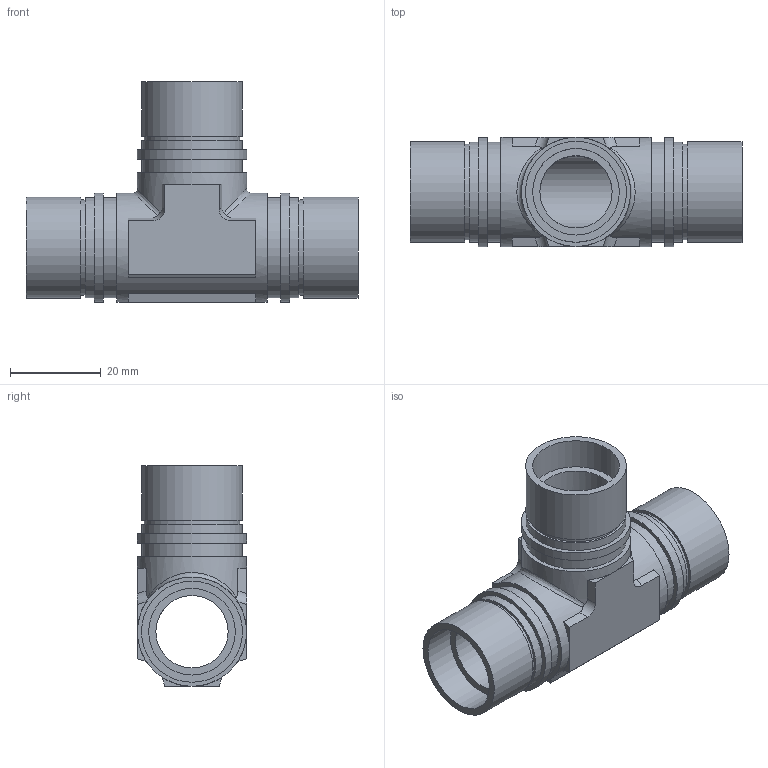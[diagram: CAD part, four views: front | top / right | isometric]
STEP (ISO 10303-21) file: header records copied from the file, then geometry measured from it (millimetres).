
FILE_DESCRIPTION( ( 'Unknown' ), '1' );
FILE_NAME( '//Sv02/01_社内情報/103_技術部/012_図面/図面/電子カタログ-3D/電子カタログ-3D元ファイル(par)/70_3D電子カタログ/05_UT/インチ/70-19.05UT-P.stp', 'Unknown', ( 'Unknown' ), ( 'Unknown' ), 'XStep 1.0', 'Unknown', ' ' );
FILE_SCHEMA( ( 'CONFIG_CONTROL_DESIGN' ) );
Length unit declared in the file: millimetre
Products named in the file (1): 1
Bounding box: 73 x 24 x 48.5 mm (x, y, z)
Volume: 19632.8 mm3; surface area: 13615.4 mm2
Topology: 1 solids, 1 shells, 80 faces, 169 edges, 110 vertices
Faces by surface type: plane 52, cylinder 26, bspline 2
Full cylindrical faces by diameter (mm): 15.9 x2, 19.05 x3, 21 x3, 22 x6, 22.2 x3, 24 x5
Entity records: 2574 total; most frequent: CARTESIAN_POINT 863, DIRECTION 358, ORIENTED_EDGE 288, AXIS2_PLACEMENT_3D 147, EDGE_CURVE 144, EDGE_LOOP 126, VERTEX_POINT 108, FACE_OUTER_BOUND 102
